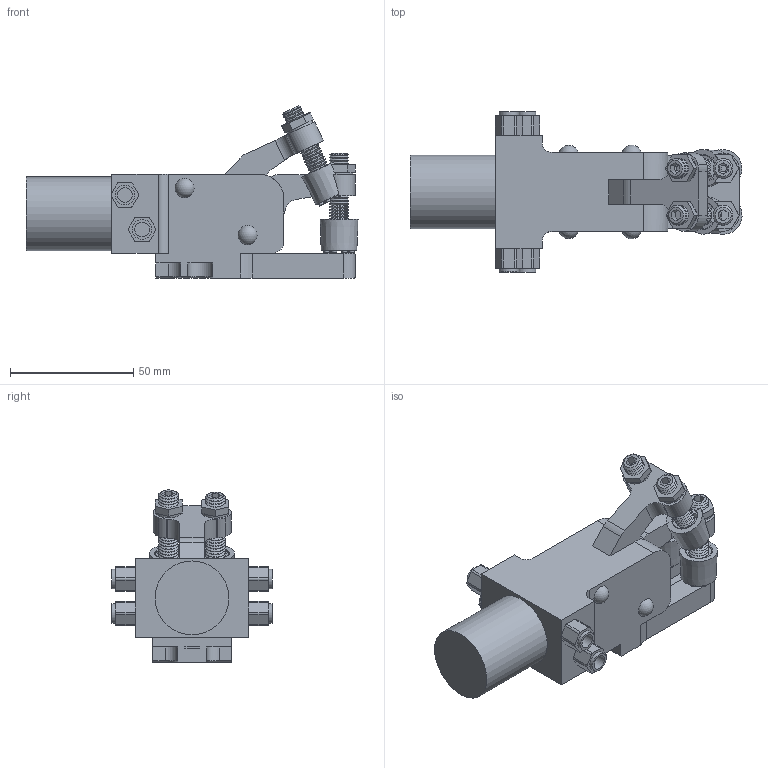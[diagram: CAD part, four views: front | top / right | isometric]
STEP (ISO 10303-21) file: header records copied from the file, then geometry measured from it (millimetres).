
FILE_DESCRIPTION(('STEP AP214'),'1');
FILE_NAME('F-02Y-02-30-IKIYAN HAVA.stp','2023-03-23T05:36:06',(' '),(' '),'Spatial InterOp 3D',' ',' ');
FILE_SCHEMA(('AUTOMOTIVE_DESIGN { 1 0 10303 214 1 1 1 1 }'));
Length unit declared in the file: metre
Products named in the file (3): F-02Y-02-30; 1565854420; Assembly
Assembly tree (2 placements, depth 3):
  Assembly
    F-02Y-02-30
      1565854420
Bounding box: 134.81 x 65 x 69.94 mm (x, y, z)
Volume: 146828.4 mm3; surface area: 33600.5 mm2
Topology: 1 solids, 36 shells, 748 faces, 1793 edges, 1151 vertices
Faces by surface type: plane 319, cone 223, cylinder 188, torus 10, bspline 4, sphere 4
Full cylindrical faces by diameter (mm): 2.018 x40, 4.036 x2, 6 x4, 6.8 x12, 8 x8, 10.595 x2, 11 x2, 13.15 x2, 30 x1
Entity records: 29799 total; most frequent: CARTESIAN_POINT 6905, DIRECTION 3374, ORIENTED_EDGE 3008, EDGE_CURVE 1504, AXIS2_PLACEMENT_3D 1396, VERTEX_POINT 1074, EDGE_LOOP 1028, STYLED_ITEM 906
